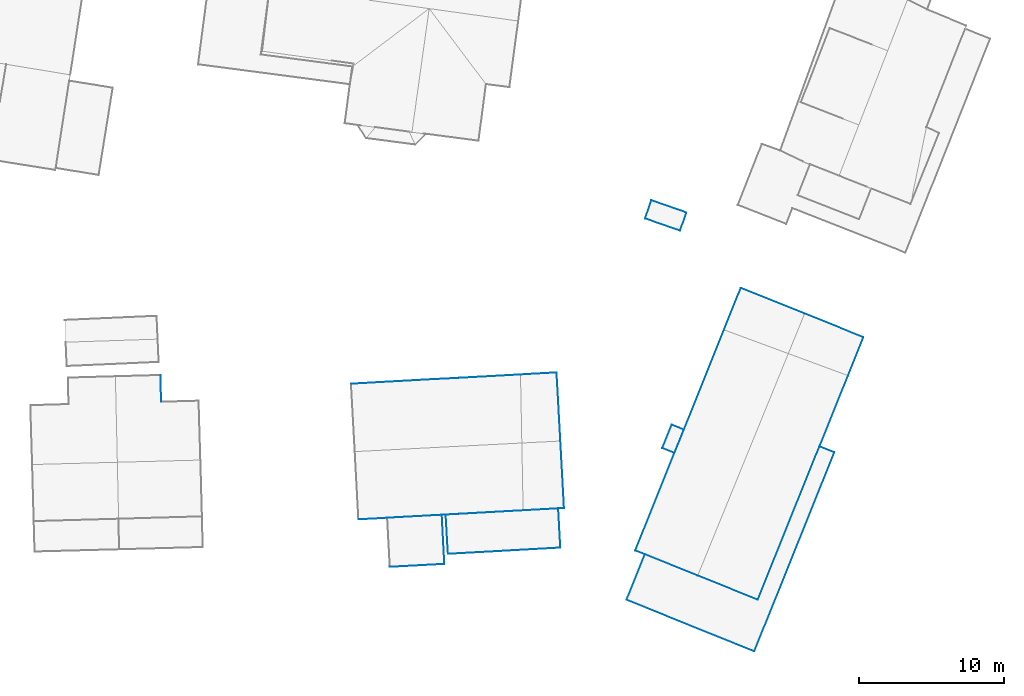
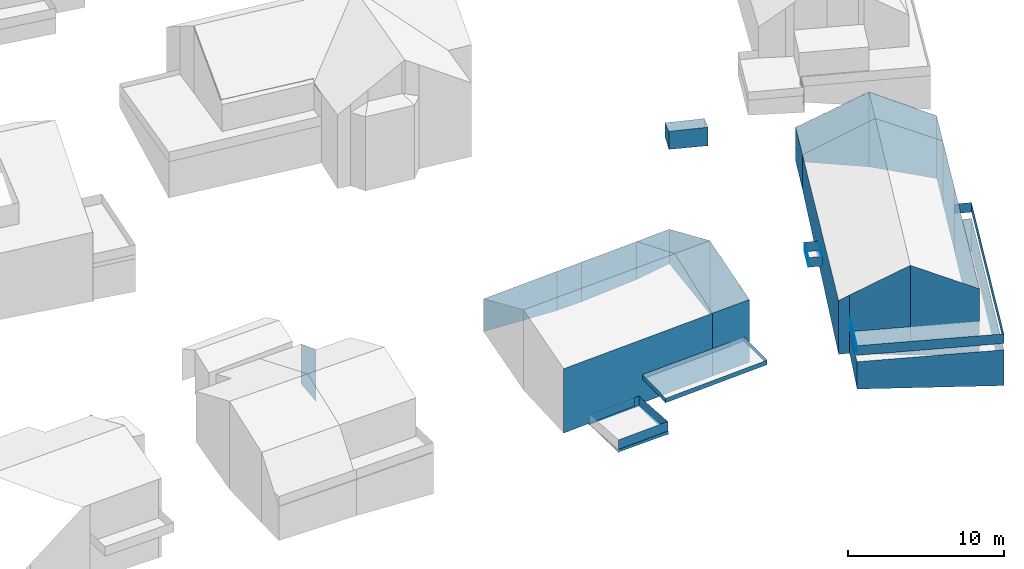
# Not in any storey, part 26 of 57: 61 walls.
"""IFC4 building model written with IfcOpenShell, lengths in metres."""

import ifcopenshell
import ifcopenshell.guid

model = None  # the IFC model being written
_history = None  # IfcOwnerHistory: only IFC2X3 demands one
_inside = {}  # id of a spatial element -> (the spatial element, [elements in it])
_under = {}  # id of a project, library or spatial element -> (it, [spatial elements below it])
_declared = {}  # id of a project -> (the project, [libraries it declares])
_typed = {}  # id of a type object -> (the type object, [elements of that type])
_made_of = {}  # id of a material, layer set ... -> (it, [elements and type objects made of it])


def new_model(schema):
    """Start an empty IFC model of exactly this schema.

    Asked for "IFC4X3", IfcOpenShell would pick the latest addendum, in which some entities
    have other attributes; the version numbers below select the first issue.
    IFC2X3 requires an IfcOwnerHistory on every rooted entity: one is made here for all.
    """
    global model, _history
    if schema == "IFC4X3":
        model = ifcopenshell.file(schema_version=(4, 3, 0, 0))
    else:
        model = ifcopenshell.file(schema=schema)
    _inside.clear()
    _under.clear()
    _declared.clear()
    _typed.clear()
    _made_of.clear()
    _history = None
    if model.schema == "IFC2X3":
        org = make("IfcOrganization", Name="unknown")
        user = make(
            "IfcPersonAndOrganization",
            ThePerson=make("IfcPerson", FamilyName="unknown"),
            TheOrganization=org,
        )
        app = make(
            "IfcApplication",
            ApplicationDeveloper=org,
            Version="unknown",
            ApplicationFullName="unknown",
            ApplicationIdentifier="unknown",
        )
        _history = make(
            "IfcOwnerHistory",
            OwningUser=user,
            OwningApplication=app,
            ChangeAction="ADDED",
            CreationDate=0,
        )
    return model


def make(cls, **values):
    """One entity of the class cls with the attributes given. An attribute that is None is left unset."""
    return model.create_entity(
        cls, **{name: value for name, value in values.items() if value is not None}
    )


def entity(cls, *values):
    """Any entity or typed value of the class cls, its attributes in the order of the schema. None: left unset."""
    e = model.create_entity(cls)
    for i, value in enumerate(values):
        if value is not None:
            e[i] = value
    return e


def rooted(cls, **values):
    """An entity with a GlobalId (a new one), such as an element, a storey or a relation."""
    return make(cls, GlobalId=ifcopenshell.guid.new(), OwnerHistory=_history, **values)


def si_unit(unit_type, name, prefix=None):
    """IfcSIUnit, for example si_unit("LENGTHUNIT", "METRE", prefix="MILLI")."""
    return make("IfcSIUnit", UnitType=unit_type, Prefix=prefix, Name=name)


def converted_unit(unit_type, name, factor, base, dimensions=None, offset=None):
    """IfcConversionBasedUnit, such as the inch: factor (a typed value) times the base unit."""
    return make(
        "IfcConversionBasedUnit"
        if offset is None
        else "IfcConversionBasedUnitWithOffset",
        ConversionOffset=offset,
        Dimensions=None
        if dimensions is None
        else entity("IfcDimensionalExponents", *dimensions),
        UnitType=unit_type,
        Name=name,
        ConversionFactor=make(
            "IfcMeasureWithUnit", ValueComponent=factor, UnitComponent=base
        ),
    )


def assignment(units):
    """IfcUnitAssignment: the units of a project."""
    return None if units is None else make("IfcUnitAssignment", Units=units)


def point(xyz):
    """IfcCartesianPoint."""
    return None if xyz is None else make("IfcCartesianPoint", Coordinates=xyz)


def direction(xyz):
    """IfcDirection."""
    return None if xyz is None else make("IfcDirection", DirectionRatios=xyz)


def frame(location, z_axis=None, x_axis=None):
    """IfcAxis2Placement3D, a coordinate frame: its origin and axes. An axis left out is left unset."""
    return make(
        "IfcAxis2Placement3D",
        Location=point(location),
        Axis=direction(z_axis),
        RefDirection=direction(x_axis),
    )


def origin():
    """The frame at (0, 0, 0) with its axes left unset."""
    return frame((0.0, 0.0, 0.0))


def place(relative_to, where):
    """IfcLocalPlacement: puts the frame where relative to a parent placement (None: the world)."""
    return make(
        "IfcLocalPlacement", PlacementRelTo=relative_to, RelativePlacement=where
    )


def context(
    kind, dimensions, precision=None, world=None, true_north=None, identifier=None
):
    """IfcGeometricRepresentationContext, for example the 3D "Model" context."""
    return make(
        "IfcGeometricRepresentationContext",
        ContextIdentifier=identifier,
        ContextType=kind,
        CoordinateSpaceDimension=dimensions,
        Precision=precision,
        WorldCoordinateSystem=world,
        TrueNorth=true_north,
    )


def subcontext(parent, identifier, kind, view, scale=None):
    """IfcGeometricRepresentationSubContext, for example "Body" below "Model"."""
    return make(
        "IfcGeometricRepresentationSubContext",
        ContextIdentifier=identifier,
        ContextType=kind,
        ParentContext=parent,
        TargetScale=scale,
        TargetView=view,
    )


def project(units=None, contexts=None):
    """IfcProject with its units and contexts."""
    return rooted(
        "IfcProject",
        Name="project",
        RepresentationContexts=contexts,
        UnitsInContext=assignment(units),
    )


def spatial(cls, under=None, at=None, **own):
    """A site, building, storey or space (cls), placed at a placement, below another one or the project."""
    s = rooted(cls, ObjectPlacement=at, **own)
    if under is not None:
        _under.setdefault(under.id(), (under, []))[1].append(s)
    return s


def faces_of(points, faces, orient=None, outer=None):
    """IfcFace entities. A face is a list of loops; a loop is a list of indices into points, from 0.

    orient and outer hold one flag for each loop. By default every Orientation is true, the
    first loop of a face is its IfcFaceOuterBound and the others are IfcFaceBound.
    """
    made = []
    for i, loops in enumerate(faces):
        bounds = []
        for j, loop in enumerate(loops):
            is_outer = j == 0 if outer is None else outer[i][j]
            bounds.append(
                make(
                    "IfcFaceOuterBound" if is_outer else "IfcFaceBound",
                    Bound=make("IfcPolyLoop", Polygon=[points[k] for k in loop]),
                    Orientation=True if orient is None else orient[i][j],
                )
            )
        made.append(make("IfcFace", Bounds=bounds))
    return made


def face_set(faces, orient=None, outer=None):
    """The faces of one IfcConnectedFaceSet. surface_model builds it on its shared points."""
    return ("IfcConnectedFaceSet", faces, orient, outer)


def surface_model(cls, points, shells):
    """IfcFaceBasedSurfaceModel or IfcShellBasedSurfaceModel (cls): surfaces that need not close."""
    shared = [point(p) for p in points]
    made = [make(c, CfsFaces=faces_of(shared, fs, o, b)) for c, fs, o, b in shells]
    if cls == "IfcFaceBasedSurfaceModel":
        return make(cls, FbsmFaces=made)
    return make(cls, SbsmBoundary=made)


def shape(context_of_items, identifier, shape_type, items):
    """IfcShapeRepresentation: the items that make up one representation, for example the "Body"."""
    return make(
        "IfcShapeRepresentation",
        ContextOfItems=context_of_items,
        RepresentationIdentifier=identifier,
        RepresentationType=shape_type,
        Items=items,
    )


def made_of(thing, what):
    """Note that an element or type object is made of a material, layer set ...; save() writes the relation."""
    if what is not None:
        _made_of.setdefault(what.id(), (what, []))[1].append(thing)
    return thing


def element(
    cls,
    number,
    at=None,
    inside=None,
    cuts=None,
    type_object=None,
    material=None,
    context=None,
    identifier="Body",
    shape_type=None,
    held_by="IfcProductDefinitionShape",
    body=None,
    shapes=None,
    **own,
):
    """One element of the class cls, such as IfcWall. Its Tag is "e" and its number.

    at: its placement. inside: the storey or other place that contains it. cuts: it is an
    opening in that element (IfcRelVoidsElement). A single representation is given by context,
    identifier, shape_type and body (its items); several are given by shapes. held_by: the class
    of the entity that holds the representations. save() writes the other relations.
    """
    e = rooted(cls, Tag="e%d" % number, ObjectPlacement=at, **own)
    if body is not None:
        shapes = [shape(context, identifier, shape_type, body)]
    if shapes is not None:
        e.Representation = make(held_by, Representations=shapes)
    if inside is not None:
        _inside.setdefault(inside.id(), (inside, []))[1].append(e)
    if cuts is not None:
        rooted(
            "IfcRelVoidsElement", RelatingBuildingElement=cuts, RelatedOpeningElement=e
        )
    if type_object is not None:
        _typed.setdefault(type_object.id(), (type_object, []))[1].append(e)
    return made_of(e, material)


def aggregate(whole, parts):
    """IfcRelAggregates: a whole, such as a stair, and the parts it consists of."""
    return rooted("IfcRelAggregates", RelatingObject=whole, RelatedObjects=parts)


def save(model, path):
    """Write the relations noted so far, then the file.

    IfcRelAggregates (storeys below a building ...), IfcRelContainedInSpatialStructure (elements
    in a storey), IfcRelDefinesByType, IfcRelAssociatesMaterial and IfcRelDeclares: one each for
    every whole, place, type object, material and project.
    """
    for whole, parts in _under.values():
        aggregate(whole, parts)
    for where, things in _inside.values():
        rooted(
            "IfcRelContainedInSpatialStructure",
            RelatedElements=things,
            RelatingStructure=where,
        )
    for kind, things in _typed.values():
        rooted("IfcRelDefinesByType", RelatedObjects=things, RelatingType=kind)
    for what, things in _made_of.values():
        rooted("IfcRelAssociatesMaterial", RelatedObjects=things, RelatingMaterial=what)
    for by, libraries in _declared.values():
        rooted("IfcRelDeclares", RelatingContext=by, RelatedDefinitions=libraries)
    model.write(path)


model = new_model("IFC4")

# Units and contexts
model_context = context("Model", 3, precision=1e-05, world=origin())
body_context = subcontext(model_context, "Body", "Model", "MODEL_VIEW")
ifc_project = project(units=[converted_unit("PLANEANGLEUNIT", "DEGREE", entity("IfcRatioMeasure", 0.0174532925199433), si_unit("PLANEANGLEUNIT", "RADIAN"), dimensions=[0, 0, 0, 0, 0, 0, 0]), si_unit("AREAUNIT", "SQUARE_METRE"), si_unit("LENGTHUNIT", "METRE")], contexts=[model_context])

# Site, building
site_placement = place(None, origin())
site = spatial("IfcSite", under=ifc_project, at=site_placement, Name="_site")
building_1_placement = place(site_placement, origin())
building_1 = spatial("IfcBuilding", under=site, at=building_1_placement, Name="_building")

# Walls
wall_1_placement = place(building_1_placement, origin())
element("IfcWall", 1, at=wall_1_placement, inside=building_1, Name="Wall", PredefinedType="NOTDEFINED", context=body_context, shape_type="SurfaceModel", body=[
    surface_model("IfcFaceBasedSurfaceModel", [(268.934, 72.325, 108.76), (267.872, 69.688, 108.76), (267.872, 69.688, 103.866), (268.934, 72.325, 103.85)], [face_set([[[0, 1, 2, 3]]])]),
])
wall_2_placement = place(building_1_placement, origin())
element("IfcWall", 2, at=wall_2_placement, inside=building_1, Name="Wall", PredefinedType="NOTDEFINED", context=body_context, shape_type="SurfaceModel", body=[
    surface_model("IfcFaceBasedSurfaceModel", [(264.88, 73.961, 111.04), (268.934, 72.325, 108.76), (268.934, 72.325, 103.85), (264.88, 73.961, 105.195)], [face_set([[[0, 1, 2, 3]]])]),
])
wall_3_placement = place(building_1_placement, origin())
element("IfcWall", 3, at=wall_3_placement, inside=building_1, Name="Wall", PredefinedType="NOTDEFINED", context=body_context, shape_type="SurfaceModel", body=[
    surface_model("IfcFaceBasedSurfaceModel", [(260.489, 75.724, 108.76), (264.88, 73.961, 111.04), (264.88, 73.961, 105.195), (260.489, 75.724, 106.09)], [face_set([[[0, 1, 2, 3]]])]),
])
wall_4_placement = place(building_1_placement, origin())
element("IfcWall", 4, at=wall_4_placement, inside=building_1, Name="Wall", PredefinedType="NOTDEFINED", context=body_context, shape_type="SurfaceModel", body=[
    surface_model("IfcFaceBasedSurfaceModel", [(259.33, 72.84, 108.76), (260.489, 75.724, 108.76), (260.489, 75.724, 106.09), (259.33, 72.84, 106.029)], [face_set([[[0, 1, 2, 3]]])]),
])

# Building
building_2_placement = place(site_placement, origin())
building_2 = spatial("IfcBuilding", under=site, at=building_2_placement, Name="_building")

# Walls
wall_5_placement = place(building_2_placement, origin())
element("IfcWall", 5, at=wall_5_placement, inside=building_2, Name="Wall", PredefinedType="NOTDEFINED", context=body_context, shape_type="SurfaceModel", body=[
    surface_model("IfcFaceBasedSurfaceModel", [(256.298, 79.665, 107.84), (253.886, 80.512, 107.84), (253.886, 80.512, 106.434), (256.298, 79.665, 106.392)], [face_set([[[0, 1, 2, 3]]])]),
])
wall_6_placement = place(building_2_placement, origin())
element("IfcWall", 6, at=wall_6_placement, inside=building_2, Name="Wall", PredefinedType="NOTDEFINED", context=body_context, shape_type="SurfaceModel", body=[
    surface_model("IfcFaceBasedSurfaceModel", [(256.738, 80.915, 107.6), (256.298, 79.665, 107.84), (256.298, 79.665, 106.392), (256.738, 80.915, 106.479)], [face_set([[[0, 1, 2, 3]]])]),
])
wall_7_placement = place(building_2_placement, origin())
element("IfcWall", 7, at=wall_7_placement, inside=building_2, Name="Wall", PredefinedType="NOTDEFINED", context=body_context, shape_type="SurfaceModel", body=[
    surface_model("IfcFaceBasedSurfaceModel", [(254.326, 81.762, 107.6), (256.738, 80.915, 107.6), (256.738, 80.915, 106.479), (254.326, 81.762, 106.477)], [face_set([[[0, 1, 2, 3]]])]),
])
wall_8_placement = place(building_2_placement, origin())
element("IfcWall", 8, at=wall_8_placement, inside=building_2, Name="Wall", PredefinedType="NOTDEFINED", context=body_context, shape_type="SurfaceModel", body=[
    surface_model("IfcFaceBasedSurfaceModel", [(253.886, 80.512, 107.84), (254.326, 81.762, 107.6), (254.326, 81.762, 106.477), (253.886, 80.512, 106.434)], [face_set([[[0, 1, 2, 3]]])]),
])

# Building
building_3_placement = place(site_placement, origin())
building_3 = spatial("IfcBuilding", under=site, at=building_3_placement, Name="_building")

# Walls
wall_9_placement = place(building_3_placement, origin())
element("IfcWall", 9, at=wall_9_placement, inside=building_3, Name="Wall", PredefinedType="NOTDEFINED", context=body_context, shape_type="SurfaceModel", body=[
    surface_model("IfcFaceBasedSurfaceModel", [(261.413, 50.677, 106.24), (252.611, 54.225, 106.24), (252.611, 54.225, 104.109), (261.413, 50.677, 103.45)], [face_set([[[0, 1, 2, 3]]])]),
])
wall_10_placement = place(building_3_placement, origin())
element("IfcWall", 10, at=wall_10_placement, inside=building_3, Name="Wall", PredefinedType="NOTDEFINED", context=body_context, shape_type="SurfaceModel", body=[
    surface_model("IfcFaceBasedSurfaceModel", [(265.906, 64.801, 106.24), (266.937, 64.396, 106.24), (266.937, 64.396, 103.666), (265.906, 64.801, 103.779)], [face_set([[[0, 1, 2, 3]]])]),
])
wall_11_placement = place(building_3_placement, origin())
element("IfcWall", 11, at=wall_11_placement, inside=building_3, Name="Wall", PredefinedType="NOTDEFINED", context=body_context, shape_type="SurfaceModel", body=[
    surface_model("IfcFaceBasedSurfaceModel", [(261.656, 54.234, 108.76), (257.513, 55.902, 111.04), (257.513, 55.902, 104.021), (261.656, 54.234, 103.592)], [face_set([[[0, 1, 2, 3]]])]),
])
wall_12_placement = place(building_3_placement, origin())
element("IfcWall", 12, at=wall_12_placement, inside=building_3, Name="Wall", PredefinedType="NOTDEFINED", context=body_context, shape_type="SurfaceModel", body=[
    surface_model("IfcFaceBasedSurfaceModel", [(267.872, 69.688, 108.76), (265.906, 64.801, 108.76), (265.906, 64.801, 103.779), (267.872, 69.688, 103.866)], [face_set([[[0, 1, 2, 3]]])]),
])
wall_13_placement = place(building_3_placement, origin())
element("IfcWall", 13, at=wall_13_placement, inside=building_3, Name="Wall", PredefinedType="NOTDEFINED", context=body_context, shape_type="SurfaceModel", body=[
    surface_model("IfcFaceBasedSurfaceModel", [(265.906, 64.801, 108.76), (261.656, 54.234, 108.76), (261.656, 54.234, 103.592), (265.906, 64.801, 103.779)], [face_set([[[0, 1, 2, 3]]])]),
])
wall_14_placement = place(building_3_placement, origin())
element("IfcWall", 14, at=wall_14_placement, inside=building_3, Name="Wall", PredefinedType="NOTDEFINED", context=body_context, shape_type="SurfaceModel", body=[
    surface_model("IfcFaceBasedSurfaceModel", [(266.937, 64.396, 106.24), (261.413, 50.677, 106.24), (261.413, 50.677, 103.45), (266.937, 64.396, 103.666)], [face_set([[[0, 1, 2, 3]]])]),
])
wall_15_placement = place(building_3_placement, origin())
element("IfcWall", 15, at=wall_15_placement, inside=building_3, Name="Wall", PredefinedType="NOTDEFINED", context=body_context, shape_type="SurfaceModel", body=[
    surface_model("IfcFaceBasedSurfaceModel", [(253.875, 57.367, 109.11), (253.21, 57.623, 108.76), (253.21, 57.623, 104.551), (253.875, 57.367, 104.56)], [face_set([[[0, 1, 2, 3]]])]),
])
wall_16_placement = place(building_3_placement, origin())
element("IfcWall", 16, at=wall_16_placement, inside=building_3, Name="Wall", PredefinedType="NOTDEFINED", context=body_context, shape_type="SurfaceModel", body=[
    surface_model("IfcFaceBasedSurfaceModel", [(253.875, 57.367, 106.24), (257.513, 55.902, 106.24), (257.513, 55.902, 104.021), (253.875, 57.367, 104.56)], [face_set([[[0, 1, 2, 3]]])]),
])
wall_17_placement = place(building_3_placement, origin())
element("IfcWall", 17, at=wall_17_placement, inside=building_3, Name="Wall", PredefinedType="NOTDEFINED", context=body_context, shape_type="SurfaceModel", body=[
    surface_model("IfcFaceBasedSurfaceModel", [(252.611, 54.225, 106.24), (253.875, 57.367, 106.24), (253.875, 57.367, 104.56), (252.611, 54.225, 104.109)], [face_set([[[0, 1, 2, 3]]])]),
])
wall_18_placement = place(building_3_placement, origin())
element("IfcWall", 18, at=wall_18_placement, inside=building_3, Name="Wall", PredefinedType="NOTDEFINED", context=body_context, shape_type="SurfaceModel", body=[
    surface_model("IfcFaceBasedSurfaceModel", [(253.21, 57.623, 108.76), (259.33, 72.84, 108.76), (259.33, 72.84, 106.029), (253.21, 57.623, 104.551)], [face_set([[[0, 1, 2, 3]]])]),
])
wall_19_placement = place(building_3_placement, origin())
element("IfcWall", 19, at=wall_19_placement, inside=building_3, Name="Wall", PredefinedType="NOTDEFINED", context=body_context, shape_type="SurfaceModel", body=[
    surface_model("IfcFaceBasedSurfaceModel", [(257.513, 55.902, 111.04), (253.875, 57.367, 109.11), (253.875, 57.367, 106.24), (257.513, 55.902, 106.24)], [face_set([[[0, 1, 2, 3]]])]),
])
wall_20_placement = place(building_3_placement, origin())
element("IfcWall", 20, at=wall_20_placement, inside=building_3, Name="Wall", PredefinedType="NOTDEFINED", context=body_context, shape_type="SurfaceModel", body=[
    surface_model("IfcFaceBasedSurfaceModel", [(252.611, 54.225, 106.741), (261.413, 50.677, 106.741), (261.413, 50.677, 107.491), (252.611, 54.225, 107.491)], [face_set([[[0, 1, 2, 3]]])]),
])
wall_21_placement = place(building_3_placement, origin())
element("IfcWall", 21, at=wall_21_placement, inside=building_3, Name="Wall", PredefinedType="NOTDEFINED", context=body_context, shape_type="SurfaceModel", body=[
    surface_model("IfcFaceBasedSurfaceModel", [(253.875, 57.367, 106.741), (252.611, 54.225, 106.741), (252.611, 54.225, 107.491), (253.875, 57.367, 107.491)], [face_set([[[0, 1, 2, 3]]])]),
])
wall_22_placement = place(building_3_placement, origin())
element("IfcWall", 22, at=wall_22_placement, inside=building_3, Name="Wall", PredefinedType="NOTDEFINED", context=body_context, shape_type="SurfaceModel", body=[
    surface_model("IfcFaceBasedSurfaceModel", [(255.909, 64.344, 106.42), (255.077, 64.684, 106.42), (255.077, 64.684, 107.17), (255.909, 64.344, 107.17)], [face_set([[[0, 1, 2, 3]]])]),
])
wall_23_placement = place(building_3_placement, origin())
element("IfcWall", 23, at=wall_23_placement, inside=building_3, Name="Wall", PredefinedType="NOTDEFINED", context=body_context, shape_type="SurfaceModel", body=[
    surface_model("IfcFaceBasedSurfaceModel", [(255.725, 66.29, 106.42), (256.558, 65.96, 106.42), (256.558, 65.96, 107.17), (255.725, 66.29, 107.17)], [face_set([[[0, 1, 2, 3]]])]),
])
wall_24_placement = place(building_3_placement, origin())
element("IfcWall", 24, at=wall_24_placement, inside=building_3, Name="Wall", PredefinedType="NOTDEFINED", context=body_context, shape_type="SurfaceModel", body=[
    surface_model("IfcFaceBasedSurfaceModel", [(255.077, 64.684, 106.42), (255.725, 66.29, 106.42), (255.725, 66.29, 107.17), (255.077, 64.684, 107.17)], [face_set([[[0, 1, 2, 3]]])]),
])
wall_25_placement = place(building_3_placement, origin())
element("IfcWall", 25, at=wall_25_placement, inside=building_3, Name="Wall", PredefinedType="NOTDEFINED", context=body_context, shape_type="SurfaceModel", body=[
    surface_model("IfcFaceBasedSurfaceModel", [(261.413, 50.677, 106.741), (266.937, 64.396, 106.741), (266.937, 64.396, 107.491), (261.413, 50.677, 107.491)], [face_set([[[0, 1, 2, 3]]])]),
])
wall_26_placement = place(building_3_placement, origin())
element("IfcWall", 26, at=wall_26_placement, inside=building_3, Name="Wall", PredefinedType="NOTDEFINED", context=body_context, shape_type="SurfaceModel", body=[
    surface_model("IfcFaceBasedSurfaceModel", [(256.558, 65.96, 106.42), (255.909, 64.344, 106.42), (255.909, 64.344, 107.17), (256.558, 65.96, 107.17)], [face_set([[[0, 1, 2, 3]]])]),
])
wall_27_placement = place(building_3_placement, origin())
element("IfcWall", 27, at=wall_27_placement, inside=building_3, Name="Wall", PredefinedType="NOTDEFINED", context=body_context, shape_type="SurfaceModel", body=[
    surface_model("IfcFaceBasedSurfaceModel", [(266.937, 64.396, 106.741), (265.906, 64.801, 106.741), (265.906, 64.801, 107.491), (266.937, 64.396, 107.491)], [face_set([[[0, 1, 2, 3]]])]),
])
wall_28_placement = place(building_3_placement, origin())
element("IfcWall", 28, at=wall_28_placement, inside=building_3, Name="Wall", PredefinedType="NOTDEFINED", context=body_context, shape_type="SurfaceModel", body=[
    surface_model("IfcFaceBasedSurfaceModel", [(253.875, 57.367, 106.741), (252.611, 54.225, 106.741), (252.611, 54.225, 107.491), (253.875, 57.367, 107.491)], [face_set([[[0, 1, 2, 3]]])]),
])
wall_29_placement = place(building_3_placement, origin())
element("IfcWall", 29, at=wall_29_placement, inside=building_3, Name="Wall", PredefinedType="NOTDEFINED", context=body_context, shape_type="SurfaceModel", body=[
    surface_model("IfcFaceBasedSurfaceModel", [(255.725, 66.29, 106.42), (256.558, 65.96, 106.42), (256.558, 65.96, 107.17), (255.725, 66.29, 107.17)], [face_set([[[0, 1, 2, 3]]])]),
])
wall_30_placement = place(building_3_placement, origin())
element("IfcWall", 30, at=wall_30_placement, inside=building_3, Name="Wall", PredefinedType="NOTDEFINED", context=body_context, shape_type="SurfaceModel", body=[
    surface_model("IfcFaceBasedSurfaceModel", [(255.909, 64.344, 106.42), (255.077, 64.684, 106.42), (255.077, 64.684, 107.17), (255.909, 64.344, 107.17)], [face_set([[[0, 1, 2, 3]]])]),
])
wall_31_placement = place(building_3_placement, origin())
element("IfcWall", 31, at=wall_31_placement, inside=building_3, Name="Wall", PredefinedType="NOTDEFINED", context=body_context, shape_type="SurfaceModel", body=[
    surface_model("IfcFaceBasedSurfaceModel", [(256.558, 65.96, 106.42), (255.909, 64.344, 106.42), (255.909, 64.344, 107.17), (256.558, 65.96, 107.17)], [face_set([[[0, 1, 2, 3]]])]),
])
wall_32_placement = place(building_3_placement, origin())
element("IfcWall", 32, at=wall_32_placement, inside=building_3, Name="Wall", PredefinedType="NOTDEFINED", context=body_context, shape_type="SurfaceModel", body=[
    surface_model("IfcFaceBasedSurfaceModel", [(261.413, 50.677, 106.741), (266.937, 64.396, 106.741), (266.937, 64.396, 107.491), (261.413, 50.677, 107.491)], [face_set([[[0, 1, 2, 3]]])]),
])
wall_33_placement = place(building_3_placement, origin())
element("IfcWall", 33, at=wall_33_placement, inside=building_3, Name="Wall", PredefinedType="NOTDEFINED", context=body_context, shape_type="SurfaceModel", body=[
    surface_model("IfcFaceBasedSurfaceModel", [(266.937, 64.396, 106.741), (265.906, 64.801, 106.741), (265.906, 64.801, 107.491), (266.937, 64.396, 107.491)], [face_set([[[0, 1, 2, 3]]])]),
])
wall_34_placement = place(building_3_placement, origin())
element("IfcWall", 34, at=wall_34_placement, inside=building_3, Name="Wall", PredefinedType="NOTDEFINED", context=body_context, shape_type="SurfaceModel", body=[
    surface_model("IfcFaceBasedSurfaceModel", [(252.611, 54.225, 106.741), (261.413, 50.677, 106.741), (261.413, 50.677, 107.491), (252.611, 54.225, 107.491)], [face_set([[[0, 1, 2, 3]]])]),
])
wall_35_placement = place(building_3_placement, origin())
element("IfcWall", 35, at=wall_35_placement, inside=building_3, Name="Wall", PredefinedType="NOTDEFINED", context=body_context, shape_type="SurfaceModel", body=[
    surface_model("IfcFaceBasedSurfaceModel", [(255.077, 64.684, 106.42), (255.725, 66.29, 106.42), (255.725, 66.29, 107.17), (255.077, 64.684, 107.17)], [face_set([[[0, 1, 2, 3]]])]),
])

# Building
building_4_placement = place(site_placement, origin())
building_4 = spatial("IfcBuilding", under=site, at=building_4_placement, Name="_building")

# Walls
wall_36_placement = place(building_4_placement, origin())
element("IfcWall", 36, at=wall_36_placement, inside=building_4, Name="Wall", PredefinedType="NOTDEFINED", context=body_context, shape_type="SurfaceModel", body=[
    surface_model("IfcFaceBasedSurfaceModel", [(247.905, 60.529, 106.0), (248.052, 57.824, 105.78), (248.052, 57.824, 105.43), (247.905, 60.529, 105.65)], [face_set([[[0, 1, 2, 3]]])]),
])
wall_37_placement = place(building_4_placement, origin())
element("IfcWall", 37, at=wall_37_placement, inside=building_4, Name="Wall", PredefinedType="NOTDEFINED", context=body_context, shape_type="SurfaceModel", body=[
    surface_model("IfcFaceBasedSurfaceModel", [(240.307, 57.395, 105.77), (240.15, 60.1, 106.04), (240.15, 60.1, 105.69), (240.307, 57.395, 105.42)], [face_set([[[0, 1, 2, 3]]])]),
])
wall_38_placement = place(building_4_placement, origin())
element("IfcWall", 38, at=wall_38_placement, inside=building_4, Name="Wall", PredefinedType="NOTDEFINED", context=body_context, shape_type="SurfaceModel", body=[
    surface_model("IfcFaceBasedSurfaceModel", [(248.052, 57.824, 105.78), (240.307, 57.395, 105.77), (240.307, 57.395, 105.42), (248.052, 57.824, 105.43)], [face_set([[[0, 1, 2, 3]]])]),
])
wall_39_placement = place(building_4_placement, origin())
element("IfcWall", 39, at=wall_39_placement, inside=building_4, Name="Wall", PredefinedType="NOTDEFINED", context=body_context, shape_type="SurfaceModel", body=[
    surface_model("IfcFaceBasedSurfaceModel", [(240.307, 57.395, 105.77), (240.15, 60.1, 106.04), (240.15, 60.1, 105.69), (240.307, 57.395, 105.42)], [face_set([[[0, 1, 2, 3]]])]),
])
wall_40_placement = place(building_4_placement, origin())
element("IfcWall", 40, at=wall_40_placement, inside=building_4, Name="Wall", PredefinedType="NOTDEFINED", context=body_context, shape_type="SurfaceModel", body=[
    surface_model("IfcFaceBasedSurfaceModel", [(247.905, 60.529, 106.0), (248.052, 57.824, 105.78), (248.052, 57.824, 105.43), (247.905, 60.529, 105.65)], [face_set([[[0, 1, 2, 3]]])]),
])
wall_41_placement = place(building_4_placement, origin())
element("IfcWall", 41, at=wall_41_placement, inside=building_4, Name="Wall", PredefinedType="NOTDEFINED", context=body_context, shape_type="SurfaceModel", body=[
    surface_model("IfcFaceBasedSurfaceModel", [(248.052, 57.824, 105.78), (240.307, 57.395, 105.77), (240.307, 57.395, 105.42), (248.052, 57.824, 105.43)], [face_set([[[0, 1, 2, 3]]])]),
])

# Building
building_5_placement = place(site_placement, origin())
building_5 = spatial("IfcBuilding", under=site, at=building_5_placement, Name="_building")

# Walls
wall_42_placement = place(building_5_placement, origin())
element("IfcWall", 42, at=wall_42_placement, inside=building_5, Name="Wall", PredefinedType="NOTDEFINED", context=body_context, shape_type="SurfaceModel", body=[
    surface_model("IfcFaceBasedSurfaceModel", [(247.794, 69.898, 108.77), (248.054, 65.179, 110.65), (248.054, 65.179, 104.918), (247.794, 69.898, 106.067)], [face_set([[[0, 1, 2, 3]]])]),
])
wall_43_placement = place(building_5_placement, origin())
element("IfcWall", 43, at=wall_43_placement, inside=building_5, Name="Wall", PredefinedType="NOTDEFINED", context=body_context, shape_type="SurfaceModel", body=[
    surface_model("IfcFaceBasedSurfaceModel", [(245.299, 69.756, 108.77), (247.794, 69.898, 108.77), (247.794, 69.898, 106.067), (245.299, 69.756, 105.801)], [face_set([[[0, 1, 2, 3]]])]),
])
wall_44_placement = place(building_5_placement, origin())
element("IfcWall", 44, at=wall_44_placement, inside=building_5, Name="Wall", PredefinedType="NOTDEFINED", context=body_context, shape_type="SurfaceModel", body=[
    surface_model("IfcFaceBasedSurfaceModel", [(248.306, 60.55, 108.77), (245.481, 60.396, 108.78), (245.481, 60.396, 103.866), (248.306, 60.55, 103.871)], [face_set([[[0, 1, 2, 3]]])]),
])
wall_45_placement = place(building_5_placement, origin())
element("IfcWall", 45, at=wall_45_placement, inside=building_5, Name="Wall", PredefinedType="NOTDEFINED", context=body_context, shape_type="SurfaceModel", body=[
    surface_model("IfcFaceBasedSurfaceModel", [(248.054, 65.179, 110.65), (248.306, 60.55, 108.77), (248.306, 60.55, 103.871), (248.054, 65.179, 104.918)], [face_set([[[0, 1, 2, 3]]])]),
])

# Building
building_6_placement = place(site_placement, origin())
building_6 = spatial("IfcBuilding", under=site, at=building_6_placement, Name="_building")

# Wall
wall_46_placement = place(building_6_placement, origin())
element("IfcWall", 46, at=wall_46_placement, inside=building_6, Name="Wall", PredefinedType="NOTDEFINED", context=body_context, shape_type="SurfaceModel", body=[
    surface_model("IfcFaceBasedSurfaceModel", [(220.493, 69.716, 109.47), (220.54, 67.874, 110.14), (220.54, 67.874, 106.056), (220.493, 69.716, 106.356)], [face_set([[[0, 1, 2, 3]]])]),
])

# Building
building_7_placement = place(site_placement, origin())
building_7 = spatial("IfcBuilding", under=site, at=building_7_placement, Name="_building")

# Walls
wall_47_placement = place(building_7_placement, origin())
element("IfcWall", 47, at=wall_47_placement, inside=building_7, Name="Wall", PredefinedType="NOTDEFINED", context=body_context, shape_type="SurfaceModel", body=[
    surface_model("IfcFaceBasedSurfaceModel", [(240.15, 60.1, 106.04), (247.905, 60.529, 106.0), (247.905, 60.529, 105.65), (240.15, 60.1, 105.69)], [face_set([[[0, 1, 2, 3]]])]),
])
wall_48_placement = place(building_7_placement, origin())
element("IfcWall", 48, at=wall_48_placement, inside=building_7, Name="Wall", PredefinedType="NOTDEFINED", context=body_context, shape_type="SurfaceModel", body=[
    surface_model("IfcFaceBasedSurfaceModel", [(233.627, 69.118, 108.77), (239.208, 69.429, 108.77), (239.208, 69.429, 105.701), (233.627, 69.118, 106.204)], [face_set([[[0, 1, 2, 3]]])]),
])
wall_49_placement = place(building_7_placement, origin())
element("IfcWall", 49, at=wall_49_placement, inside=building_7, Name="Wall", PredefinedType="NOTDEFINED", context=body_context, shape_type="SurfaceModel", body=[
    surface_model("IfcFaceBasedSurfaceModel", [(245.481, 60.396, 108.78), (234.139, 59.771, 108.8), (234.139, 59.771, 103.765), (245.481, 60.396, 103.866)], [face_set([[[0, 1, 2, 3]]])]),
])
wall_50_placement = place(building_7_placement, origin())
element("IfcWall", 50, at=wall_50_placement, inside=building_7, Name="Wall", PredefinedType="NOTDEFINED", context=body_context, shape_type="SurfaceModel", body=[
    surface_model("IfcFaceBasedSurfaceModel", [(239.208, 69.429, 108.77), (241.091, 69.524, 108.77), (241.091, 69.524, 105.666), (239.208, 69.429, 105.701)], [face_set([[[0, 1, 2, 3]]])]),
])
wall_51_placement = place(building_7_placement, origin())
element("IfcWall", 51, at=wall_51_placement, inside=building_7, Name="Wall", PredefinedType="NOTDEFINED", context=body_context, shape_type="SurfaceModel", body=[
    surface_model("IfcFaceBasedSurfaceModel", [(239.88, 60.087, 103.72), (240.061, 56.701, 103.72), (240.061, 56.701, 103.475), (239.88, 60.087, 103.708)], [face_set([[[0, 1, 2, 3]]])]),
])
wall_52_placement = place(building_7_placement, origin())
element("IfcWall", 52, at=wall_52_placement, inside=building_7, Name="Wall", PredefinedType="NOTDEFINED", context=body_context, shape_type="SurfaceModel", body=[
    surface_model("IfcFaceBasedSurfaceModel", [(236.123, 59.884, 103.72), (239.88, 60.087, 103.72), (239.88, 60.087, 103.708), (236.123, 59.884, 103.709)], [face_set([[[0, 1, 2, 3]]])]),
])
wall_53_placement = place(building_7_placement, origin())
element("IfcWall", 53, at=wall_53_placement, inside=building_7, Name="Wall", PredefinedType="NOTDEFINED", context=body_context, shape_type="SurfaceModel", body=[
    surface_model("IfcFaceBasedSurfaceModel", [(240.061, 56.701, 103.72), (236.304, 56.498, 103.72), (236.304, 56.498, 103.517), (240.061, 56.701, 103.475)], [face_set([[[0, 1, 2, 3]]])]),
])
wall_54_placement = place(building_7_placement, origin())
element("IfcWall", 54, at=wall_54_placement, inside=building_7, Name="Wall", PredefinedType="NOTDEFINED", context=body_context, shape_type="SurfaceModel", body=[
    surface_model("IfcFaceBasedSurfaceModel", [(241.091, 69.524, 108.77), (245.299, 69.756, 108.77), (245.299, 69.756, 105.801), (241.091, 69.524, 105.666)], [face_set([[[0, 1, 2, 3]]])]),
])
wall_55_placement = place(building_7_placement, origin())
element("IfcWall", 55, at=wall_55_placement, inside=building_7, Name="Wall", PredefinedType="NOTDEFINED", context=body_context, shape_type="SurfaceModel", body=[
    surface_model("IfcFaceBasedSurfaceModel", [(239.88, 60.087, 103.72), (240.061, 56.701, 103.72), (240.061, 56.701, 104.47), (239.88, 60.087, 104.47)], [face_set([[[0, 1, 2, 3]]])]),
])
wall_56_placement = place(building_7_placement, origin())
element("IfcWall", 56, at=wall_56_placement, inside=building_7, Name="Wall", PredefinedType="NOTDEFINED", context=body_context, shape_type="SurfaceModel", body=[
    surface_model("IfcFaceBasedSurfaceModel", [(240.061, 56.701, 103.72), (236.304, 56.498, 103.72), (236.304, 56.498, 104.47), (240.061, 56.701, 104.47)], [face_set([[[0, 1, 2, 3]]])]),
])
for number, where, name in (
    (57, (0.0, 0.0, 0.0), "Wall"),
    (58, (0.0, 0.0, 0.0), "Wall"),
):
    element("IfcWall", number, at=place(building_7_placement, frame(where)), inside=building_7, Name=name, PredefinedType="NOTDEFINED", context=body_context, shape_type="SurfaceModel", body=[
        surface_model("IfcFaceBasedSurfaceModel", [(236.123, 59.884, 103.72), (239.88, 60.087, 103.72), (239.88, 60.087, 104.47), (236.123, 59.884, 104.47)], [face_set([[[0, 1, 2, 3]]])]),
    ])
wall_57_placement = place(building_7_placement, origin())
element("IfcWall", 59, at=wall_57_placement, inside=building_7, Name="Wall", PredefinedType="NOTDEFINED", context=body_context, shape_type="SurfaceModel", body=[
    surface_model("IfcFaceBasedSurfaceModel", [(240.061, 56.701, 103.72), (236.304, 56.498, 103.72), (236.304, 56.498, 104.47), (240.061, 56.701, 104.47)], [face_set([[[0, 1, 2, 3]]])]),
])
wall_58_placement = place(building_7_placement, origin())
element("IfcWall", 60, at=wall_58_placement, inside=building_7, Name="Wall", PredefinedType="NOTDEFINED", context=body_context, shape_type="SurfaceModel", body=[
    surface_model("IfcFaceBasedSurfaceModel", [(239.88, 60.087, 103.72), (240.061, 56.701, 103.72), (240.061, 56.701, 104.47), (239.88, 60.087, 104.47)], [face_set([[[0, 1, 2, 3]]])]),
])
wall_59_placement = place(building_7_placement, origin())
element("IfcWall", 61, at=wall_59_placement, inside=building_7, Name="Wall", PredefinedType="NOTDEFINED", context=body_context, shape_type="SurfaceModel", body=[
    surface_model("IfcFaceBasedSurfaceModel", [(240.15, 60.1, 106.04), (247.905, 60.529, 106.0), (247.905, 60.529, 105.65), (240.15, 60.1, 105.69)], [face_set([[[0, 1, 2, 3]]])]),
])

save(model, "model.ifc")
